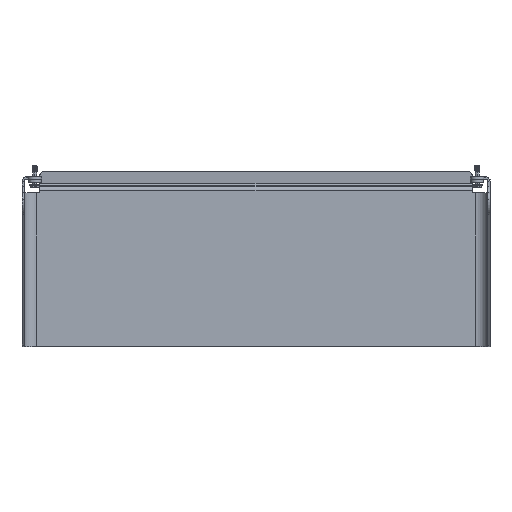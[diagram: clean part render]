
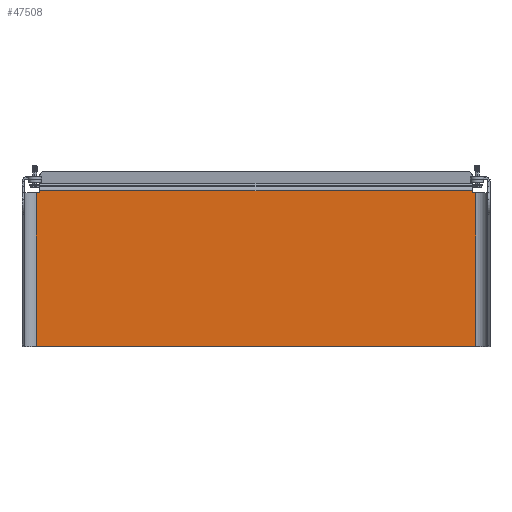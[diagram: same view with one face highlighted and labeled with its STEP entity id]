
A CAD part, front view. The second image highlights one B-rep face of the part: STEP entity #47508.
In plain terms, the highlighted planar face has unit normal (0, -1, 0).
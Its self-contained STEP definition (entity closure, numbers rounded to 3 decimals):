
#9761=DIRECTION('',(0.,0.,1.));
#9762=VECTOR('',#9761,0.019);
#9763=CARTESIAN_POINT('',(-8.433,18.537,6.063));
#9764=LINE('',#9763,#9762);
#9765=DIRECTION('',(0.,0.,-1.));
#9766=VECTOR('',#9765,0.019);
#9767=CARTESIAN_POINT('',(8.433,18.537,6.082));
#9768=LINE('',#9767,#9766);
#9769=DIRECTION('',(0.,0.,1.));
#9770=VECTOR('',#9769,6.);
#9771=CARTESIAN_POINT('',(8.558,18.537,0.));
#9772=LINE('',#9771,#9770);
#9777=DIRECTION('',(-1.,0.,0.));
#9778=VECTOR('',#9777,0.062);
#9779=CARTESIAN_POINT('',(-8.496,18.537,6.));
#9780=LINE('',#9779,#9778);
#9790=CARTESIAN_POINT('',(-8.496,18.537,6.063));
#9791=DIRECTION('',(0.,1.,0.));
#9792=DIRECTION('',(1.,0.,0.));
#9793=AXIS2_PLACEMENT_3D('',#9790,#9791,#9792);
#9824=DIRECTION('',(1.,0.,0.));
#9825=VECTOR('',#9824,16.866);
#9826=CARTESIAN_POINT('',(-8.433,18.537,6.082));
#9827=LINE('',#9826,#9825);
#10000=CARTESIAN_POINT('',(8.496,18.537,6.063));
#10001=DIRECTION('',(0.,1.,0.));
#10002=DIRECTION('',(0.,0.,-1.));
#10003=AXIS2_PLACEMENT_3D('',#10000,#10001,#10002);
#10017=DIRECTION('',(-1.,0.,0.));
#10018=VECTOR('',#10017,0.062);
#10019=CARTESIAN_POINT('',(8.558,18.537,6.));
#10020=LINE('',#10019,#10018);
#10039=DIRECTION('',(0.,0.,1.));
#10040=VECTOR('',#10039,6.);
#10041=CARTESIAN_POINT('',(-8.558,18.537,0.));
#10042=LINE('',#10041,#10040);
#27069=DIRECTION('',(-1.,0.,0.));
#27070=VECTOR('',#27069,17.116);
#27071=CARTESIAN_POINT('',(8.558,18.537,0.));
#27072=LINE('',#27071,#27070);
#34358=CARTESIAN_POINT('',(8.558,18.537,0.));
#34360=VERTEX_POINT('',#34358);
#34361=CARTESIAN_POINT('',(-8.558,18.537,0.));
#34362=VERTEX_POINT('',#34361);
#34365=CARTESIAN_POINT('',(8.558,18.537,6.));
#34366=VERTEX_POINT('',#34365);
#34367=CARTESIAN_POINT('',(-8.558,18.537,6.));
#34368=VERTEX_POINT('',#34367);
#34717=CARTESIAN_POINT('',(8.433,18.537,6.082));
#34718=VERTEX_POINT('',#34717);
#34719=CARTESIAN_POINT('',(-8.433,18.537,6.082));
#34720=VERTEX_POINT('',#34719);
#34746=CARTESIAN_POINT('',(8.433,18.537,6.063));
#34748=VERTEX_POINT('',#34746);
#34750=CARTESIAN_POINT('',(8.496,18.537,6.));
#34752=VERTEX_POINT('',#34750);
#34754=CARTESIAN_POINT('',(-8.496,18.537,6.));
#34756=VERTEX_POINT('',#34754);
#34758=CARTESIAN_POINT('',(-8.433,18.537,6.063));
#34760=VERTEX_POINT('',#34758);
#47482=CARTESIAN_POINT('',(8.558,18.537,0.));
#47483=DIRECTION('',(0.,1.,0.));
#47484=DIRECTION('',(-1.,0.,0.));
#47485=AXIS2_PLACEMENT_3D('',#47482,#47483,#47484);
#47486=PLANE('',#47485);
#47488=ORIENTED_EDGE('',*,*,#47487,.F.);
#47490=ORIENTED_EDGE('',*,*,#47489,.F.);
#47492=ORIENTED_EDGE('',*,*,#47491,.T.);
#47494=ORIENTED_EDGE('',*,*,#47493,.T.);
#47496=ORIENTED_EDGE('',*,*,#47495,.T.);
#47498=ORIENTED_EDGE('',*,*,#47497,.F.);
#47500=ORIENTED_EDGE('',*,*,#47499,.F.);
#47501=ORIENTED_EDGE('',*,*,#47477,.F.);
#47503=ORIENTED_EDGE('',*,*,#47502,.T.);
#47505=ORIENTED_EDGE('',*,*,#47504,.T.);
#47506=EDGE_LOOP('',(#47488,#47490,#47492,#47494,#47496,#47498,#47500,#47501,
#47503,#47505));
#47507=FACE_OUTER_BOUND('',#47506,.F.);
#47508=ADVANCED_FACE('',(#47507),#47486,.F.);
#9794=CIRCLE('',#9793,0.063);
#10004=CIRCLE('',#10003,0.063);
#47477=EDGE_CURVE('',#34360,#34366,#9772,.T.);
#47487=EDGE_CURVE('',#34756,#34368,#9780,.T.);
#47489=EDGE_CURVE('',#34760,#34756,#9794,.T.);
#47491=EDGE_CURVE('',#34760,#34720,#9764,.T.);
#47493=EDGE_CURVE('',#34720,#34718,#9827,.T.);
#47495=EDGE_CURVE('',#34718,#34748,#9768,.T.);
#47497=EDGE_CURVE('',#34752,#34748,#10004,.T.);
#47499=EDGE_CURVE('',#34366,#34752,#10020,.T.);
#47502=EDGE_CURVE('',#34360,#34362,#27072,.T.);
#47504=EDGE_CURVE('',#34362,#34368,#10042,.T.);
